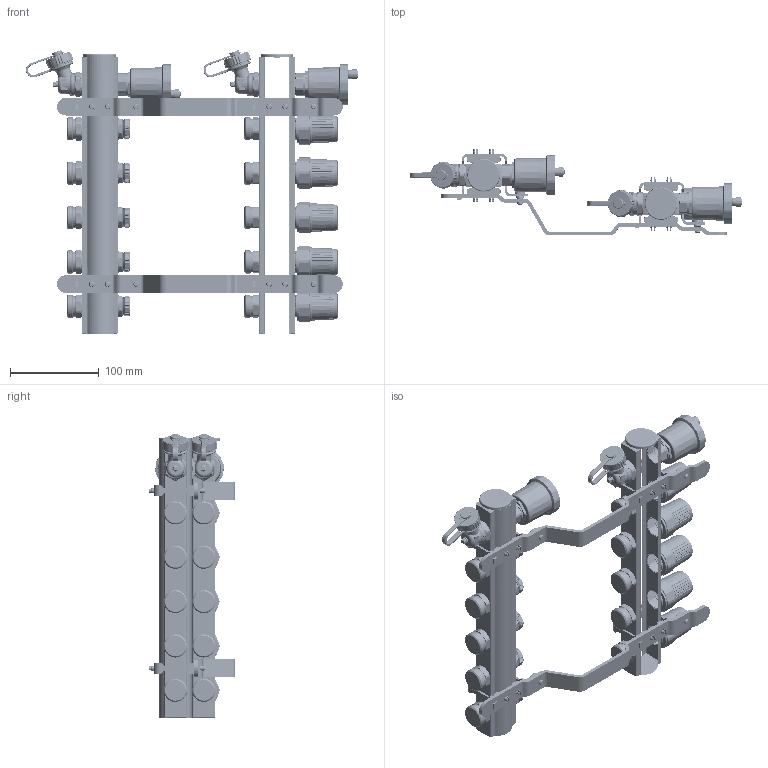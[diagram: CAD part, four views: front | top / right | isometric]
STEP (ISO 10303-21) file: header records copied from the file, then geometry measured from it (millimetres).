
FILE_DESCRIPTION(('STEP AP203'), '1');
FILE_NAME('VTc.594.EMNX.0605', '2025-11-26T13:18:06', ('verevichevva'), ('Vesta'), 'C3D Converter', 'C3D Toolkit', '');
FILE_SCHEMA(('CONFIG_CONTROL_DESIGN'));
Length unit declared in the file: millimetre
Products named in the file (1): ВР.622621.157.000 СБ
Bounding box: 374.1 x 97.53 x 319.67 mm (x, y, z)
Surface area: 233246 mm2 (no closed solid volume)
Topology: 0 solids, 1 shells, 9961 faces, 26120 edges, 15947 vertices
Faces by surface type: cylinder 2942, bspline 2446, plane 1978, torus 1388, cone 957, sphere 250
Full cylindrical faces by diameter (mm): 4.2 x2, 6 x12, 6.8 x4, 7 x2, 8.352 x4, 8.4 x4, 9.5 x2, 11.2 x2, 11.5 x2, 12 x4, 16 x2, 17 x5, 18 x17, 20.8 x5, 21.5 x5, 23.3 x10, 24.5 x5, 25 x13, 25.8 x2, 26.1 x10, 28.4 x2, 33 x5, 34 x5
Entity records: 569227 total; most frequent: CARTESIAN_POINT 353633, ORIENTED_EDGE 50892, DIRECTION 35992, EDGE_CURVE 25453, VERTEX_POINT 15937, AXIS2_PLACEMENT_3D 15145, B_SPLINE_CURVE_WITH_KNOTS 12013, EDGE_LOOP 10610
